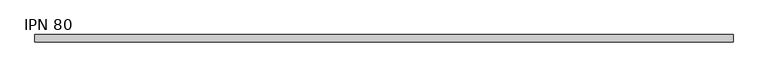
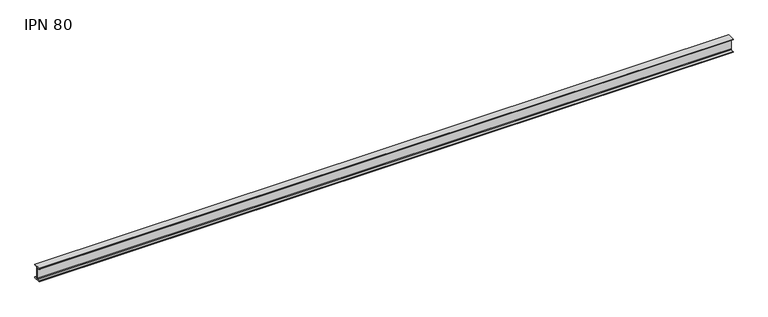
"""IFC4 building model written with IfcOpenShell, lengths in millimetres: beam geometry, IPN - Secciones en I con alas cónicas : IPN 80."""

from ifc_helpers import new_model, si_unit, point, frame, frame_2d, origin, place, context, project, spatial, polyline, circle_curve, trimmed, segment, composite_curve, outline, extrude, source, transform, mapped, element, save


def ipn_80_8b308bd3(model_context):
    return source(origin(), model_context, "Body", "SweptSolid", [
        extrude(outline(composite_curve([segment(polyline([(-21.0, 40.0), (21.0, 40.0), (21.0, 37.5704306)]), True, "CONTINUOUS"), segment(trimmed(circle_curve(frame_2d((18.7, 37.5704306)), 2.3), [point((21.0, 37.5704306))], [point((19.01889, 35.2926446))], False, "CARTESIAN"), True, "CONTINUOUS"), segment(polyline([(19.01889, 35.2926446), (5.3092734, 33.3732983)]), True, "CONTINUOUS"), segment(trimmed(circle_curve(frame_2d((5.85, 29.5109655)), 3.9), [point((5.3092734, 33.3732983))], [point((1.95, 29.5109655))], True, "CARTESIAN"), True, "CONTINUOUS"), segment(polyline([(1.95, 29.5109655), (1.95, -29.5109655)]), True, "CONTINUOUS"), segment(trimmed(circle_curve(frame_2d((5.85, -29.5109655)), 3.9), [point((1.95, -29.5109655))], [point((5.3092734, -33.3732983))], True, "CARTESIAN"), True, "CONTINUOUS"), segment(polyline([(5.3092734, -33.3732983), (19.01889, -35.2926446)]), True, "CONTINUOUS"), segment(trimmed(circle_curve(frame_2d((18.7, -37.5704306)), 2.3), [point((19.01889, -35.2926446))], [point((21.0, -37.5704306))], False, "CARTESIAN"), True, "CONTINUOUS"), segment(polyline([(21.0, -37.5704306), (21.0, -40.0), (-21.0, -40.0), (-21.0, -37.5704306)]), True, "CONTINUOUS"), segment(trimmed(circle_curve(frame_2d((-18.7, -37.5704306)), 2.3), [point((-21.0, -37.5704306))], [point((-19.01889, -35.2926446))], False, "CARTESIAN"), True, "CONTINUOUS"), segment(polyline([(-19.01889, -35.2926446), (-5.3092734, -33.3732983)]), True, "CONTINUOUS"), segment(trimmed(circle_curve(frame_2d((-5.85, -29.5109655)), 3.9), [point((-5.3092734, -33.3732983))], [point((-1.95, -29.5109655))], True, "CARTESIAN"), True, "CONTINUOUS"), segment(polyline([(-1.95, -29.5109655), (-1.95, 29.5109655)]), True, "CONTINUOUS"), segment(trimmed(circle_curve(frame_2d((-5.85, 29.5109655)), 3.9), [point((-1.95, 29.5109655))], [point((-5.3092734, 33.3732983))], True, "CARTESIAN"), True, "CONTINUOUS"), segment(polyline([(-5.3092734, 33.3732983), (-19.01889, 35.2926446)]), True, "CONTINUOUS"), segment(trimmed(circle_curve(frame_2d((-18.7, 37.5704306)), 2.3), [point((-19.01889, 35.2926446))], [point((-21.0, 37.5704306))], False, "CARTESIAN"), True, "CONTINUOUS"), segment(polyline([(-21.0, 37.5704306), (-21.0, 40.0)]), True, "CONTINUOUS")], self_intersect=False)), frame((-1993.85, 0.0, 0.0), z_axis=(1.0, 0.0, 0.0), x_axis=(0.0, 1.0, 0.0)), (0.0, 0.0, 1.0), 3938.65),
    ])


if __name__ == "__main__":
    model = new_model("IFC4")
    model_context = context("Model", 3, world=origin())
    ifc_project = project(units=[si_unit("LENGTHUNIT", "METRE", prefix="MILLI")], contexts=[model_context])
    site = spatial("IfcSite", under=ifc_project)
    building = spatial("IfcBuilding", under=site)
    placement = place(None, origin())
    ipn_80_shape = ipn_80_8b308bd3(model_context)
    element("IfcBeam", 1, ObjectType="IPN - Secciones en I con alas cónicas : IPN 80", at=placement, inside=building, context=model_context, shape_type="MappedRepresentation", body=[
        mapped(ipn_80_shape, transform((0.0, 0.0, 0.0), x_axis=(1.0, 0.0, 0.0), y_axis=(0.0, 1.0, 0.0), z_axis=(0.0, 0.0, 1.0))),
    ])
    save(model, "model.ifc")
